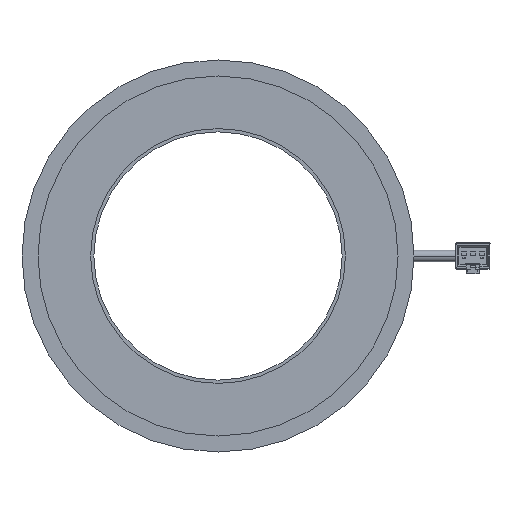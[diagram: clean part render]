
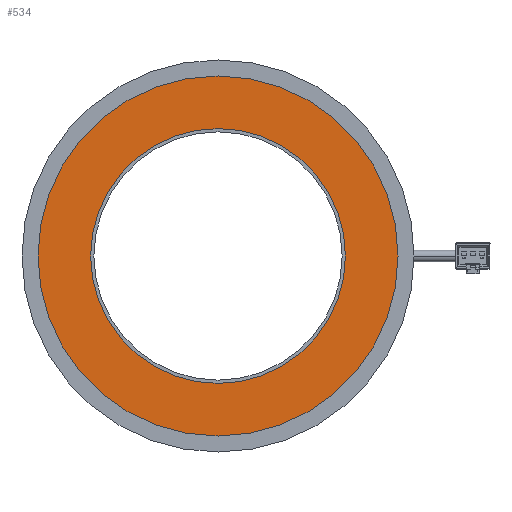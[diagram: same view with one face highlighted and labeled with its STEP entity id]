
A CAD part, front view. The second image highlights one B-rep face of the part: STEP entity #534.
In plain terms, the highlighted planar face has unit normal (0, -1, 0).
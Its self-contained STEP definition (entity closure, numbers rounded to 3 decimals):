
#1=CARTESIAN_POINT('',(0.,-11.6,0.));
#2=DIRECTION('',(0.,1.,0.));
#3=DIRECTION('',(1.,0.,0.));
#4=AXIS2_PLACEMENT_3D('',#1,#2,#3);
#6=CARTESIAN_POINT('',(0.,-11.6,0.));
#7=DIRECTION('',(0.,1.,0.));
#8=DIRECTION('',(-1.,0.,0.));
#9=AXIS2_PLACEMENT_3D('',#6,#7,#8);
#11=CARTESIAN_POINT('',(0.,-11.6,0.));
#12=DIRECTION('',(0.,-1.,0.));
#13=DIRECTION('',(1.,0.,0.));
#14=AXIS2_PLACEMENT_3D('',#11,#12,#13);
#16=CARTESIAN_POINT('',(0.,-11.6,0.));
#17=DIRECTION('',(0.,-1.,0.));
#18=DIRECTION('',(-1.,0.,0.));
#19=AXIS2_PLACEMENT_3D('',#16,#17,#18);
#405=CARTESIAN_POINT('',(55.1,-11.6,0.));
#406=CARTESIAN_POINT('',(-55.1,-11.6,0.));
#407=VERTEX_POINT('',#405);
#408=VERTEX_POINT('',#406);
#409=CARTESIAN_POINT('',(39.,-11.6,0.));
#410=CARTESIAN_POINT('',(-39.,-11.6,0.));
#411=VERTEX_POINT('',#409);
#412=VERTEX_POINT('',#410);
#517=CARTESIAN_POINT('',(0.,-11.6,0.));
#518=DIRECTION('',(0.,1.,0.));
#519=DIRECTION('',(1.,0.,0.));
#520=AXIS2_PLACEMENT_3D('',#517,#518,#519);
#521=PLANE('',#520);
#523=ORIENTED_EDGE('',*,*,#522,.T.);
#525=ORIENTED_EDGE('',*,*,#524,.T.);
#526=EDGE_LOOP('',(#523,#525));
#527=FACE_OUTER_BOUND('',#526,.F.);
#529=ORIENTED_EDGE('',*,*,#528,.T.);
#531=ORIENTED_EDGE('',*,*,#530,.T.);
#532=EDGE_LOOP('',(#529,#531));
#533=FACE_BOUND('',#532,.F.);
#5=CIRCLE('',#4,55.1);
#10=CIRCLE('',#9,55.1);
#15=CIRCLE('',#14,39.);
#20=CIRCLE('',#19,39.);
#522=EDGE_CURVE('',#407,#408,#5,.T.);
#524=EDGE_CURVE('',#408,#407,#10,.T.);
#528=EDGE_CURVE('',#411,#412,#15,.T.);
#530=EDGE_CURVE('',#412,#411,#20,.T.);
#534=ADVANCED_FACE('',(#527,#533),#521,.F.);
